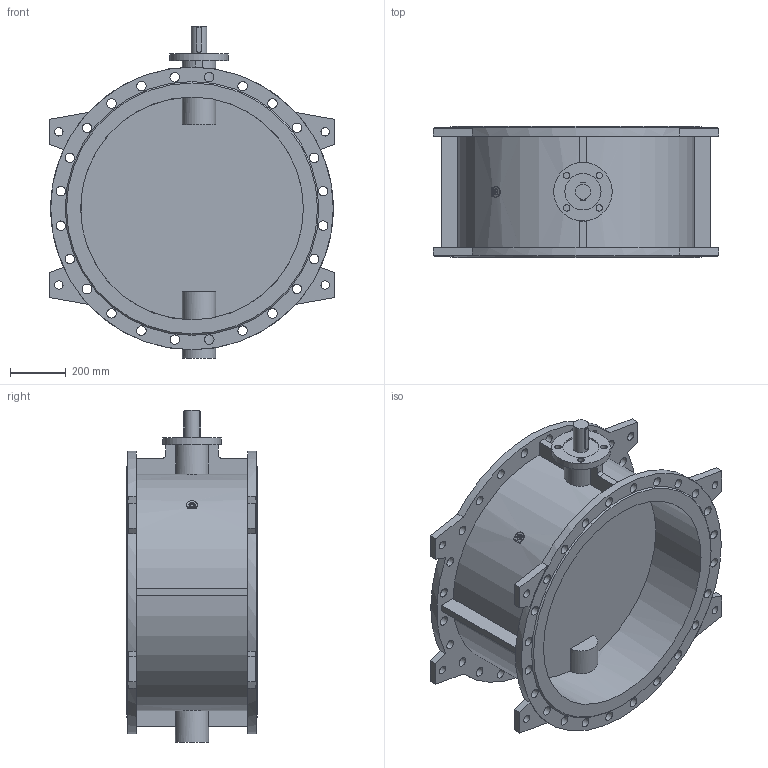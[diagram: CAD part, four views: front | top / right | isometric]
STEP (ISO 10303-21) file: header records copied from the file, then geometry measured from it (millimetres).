
FILE_DESCRIPTION(('STEP AP203'), '1');
FILE_NAME('Çàòâîð 023F.Z DN800 PN10_èñï', '', ('UNSPECIFIED'), ('UNSPECIFIED'), 'ASCON STEP Converter 1.6', 'ASCON Math Kernel', '');
FILE_SCHEMA(('CONFIG_CONTROL_DESIGN'));
Length unit declared in the file: millimetre
Bounding box: 1026 x 470 x 1192 mm (x, y, z)
Volume: 85709837.8 mm3; surface area: 4983953.7 mm2
Topology: 1 solids, 1 shells, 174 faces, 477 edges, 318 vertices
Faces by surface type: cylinder 87, plane 85, cone 2
Full cylindrical faces by diameter (mm): 23 x4, 30 x8, 34 x48, 55 x1, 120 x1, 130 x1, 210 x1, 800 x2, 1015 x2
Entity records: 7984 total; most frequent: CARTESIAN_POINT 2016, DIRECTION 926, ORIENTED_EDGE 812, EDGE_CURVE 406, EDGE_LOOP 378, AXIS2_PLACEMENT_3D 364, VERTEX_POINT 318, FACE_BOUND 242
